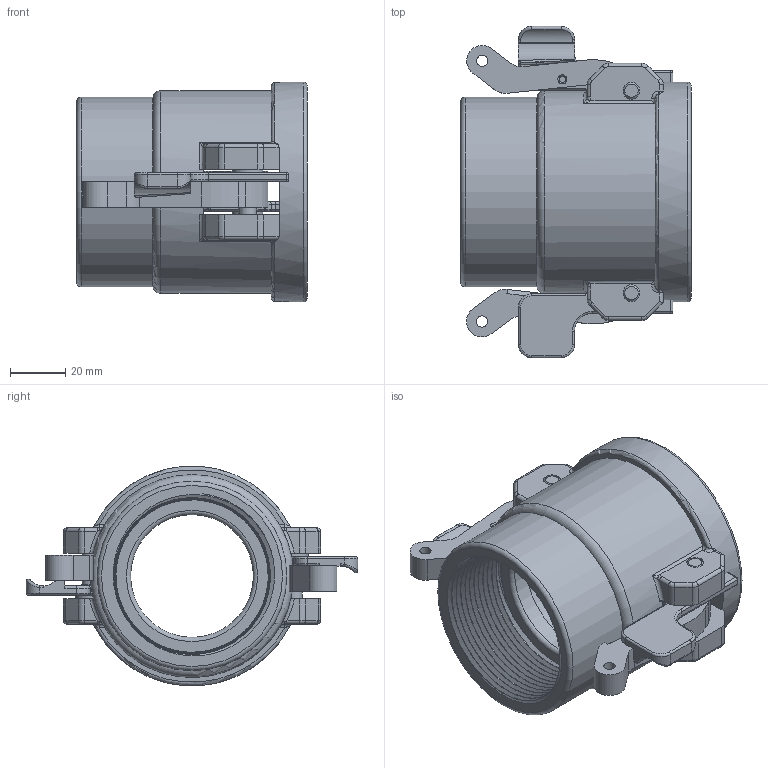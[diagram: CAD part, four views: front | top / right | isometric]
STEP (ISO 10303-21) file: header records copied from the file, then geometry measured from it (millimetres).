
FILE_DESCRIPTION(/* description */ ('Alibre Inc.'),/* implementation_level */ '2;1');
FILE_NAME(/* name */ 'export0',/* time_stamp */ '2016-04-04T10:40:16-04:00',/* author */ (''),/* organization */ (''),/* preprocessor_version */ 'ST-DEVELOPER v14',/* originating_system */ 'Alibre',/* authorisation */ '');
FILE_SCHEMA (('AUTOMOTIVE_DESIGN'));
Length unit declared in the file: centimetre
Bounding box: 83.31 x 120 x 79.5 mm (x, y, z)
Volume: 143164.4 mm3; surface area: 65522.7 mm2
Topology: 8 solids, 8 shells, 389 faces, 989 edges, 605 vertices
Faces by surface type: cylinder 152, plane 115, torus 52, cone 31, bspline 23, sphere 16
Full cylindrical faces by diameter (mm): 4.064 x2, 6.096 x4, 6.35 x4, 6.604 x4, 11.125 x2, 44.45 x1, 50.8 x1, 63.5 x1, 66.802 x1, 67.056 x1, 68.58 x1, 73.406 x1, 79.502 x1
Entity records: 33427 total; most frequent: CARTESIAN_POINT 26899, ORIENTED_EDGE 1376, DIRECTION 1221, EDGE_CURVE 688, AXIS2_PLACEMENT_3D 529, VERTEX_POINT 446, EDGE_LOOP 328, FACE_BOUND 328
